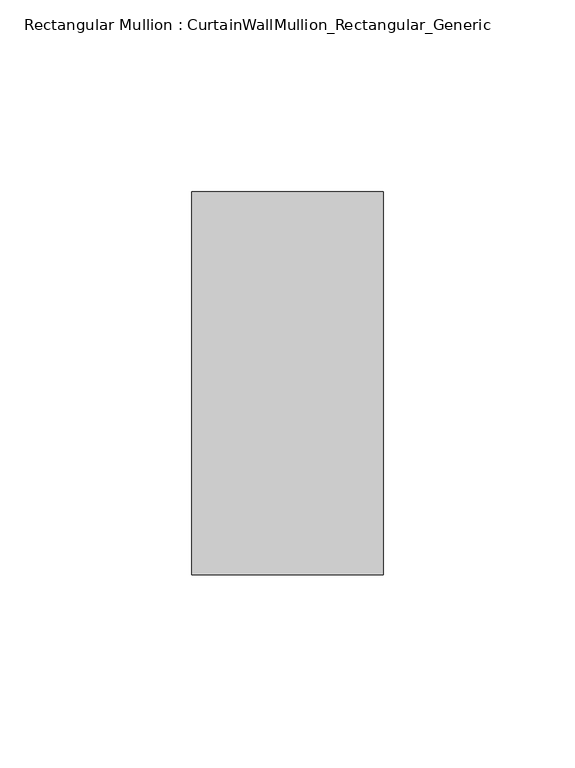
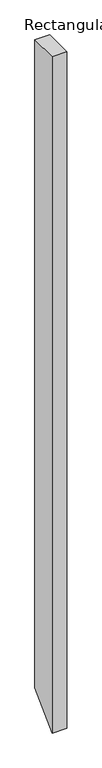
"""IFC4 building model written with IfcOpenShell, lengths in millimetres: member geometry, Rectangular Mullion : CurtainWallMullion_Rectangular_Generic."""

from ifc_helpers import new_model, si_unit, frame, origin, place, context, project, spatial, polyline, outline, extrude, source, transform, mapped, element, save


def rectangular_mullion_curtainwallmullion_rectangular_generic_0700f4c6(model_context):
    return source(origin(), model_context, "Body", "SweptSolid", [
        extrude(outline(polyline([(-50.0, 0.0), (50.0, 0.0), (50.0, -2302.2000002), (-50.0, -2402.2000002), (-50.0, 0.0)])), frame((-50.0, 0.0, 0.0), z_axis=(1.0, 0.0, 0.0), x_axis=(0.0, 1.0, 0.0)), (0.0, 0.0, 1.0), 50.0),
    ])


if __name__ == "__main__":
    model = new_model("IFC4")
    model_context = context("Model", 3, world=origin())
    ifc_project = project(units=[si_unit("LENGTHUNIT", "METRE", prefix="MILLI")], contexts=[model_context])
    site = spatial("IfcSite", under=ifc_project)
    building = spatial("IfcBuilding", under=site)
    placement = place(None, origin())
    rectangular_mullion_curtainwallmullion_rectangular_generic_shape = rectangular_mullion_curtainwallmullion_rectangular_generic_0700f4c6(model_context)
    element("IfcMember", 1, ObjectType="Rectangular Mullion : CurtainWallMullion_Rectangular_Generic", at=placement, inside=building, context=model_context, shape_type="MappedRepresentation", body=[
        mapped(rectangular_mullion_curtainwallmullion_rectangular_generic_shape, transform((0.0, 0.0, 0.0), x_axis=(1.0, 0.0, 0.0), y_axis=(0.0, 1.0, 0.0), z_axis=(0.0, 0.0, 1.0))),
    ])
    save(model, "model.ifc")
